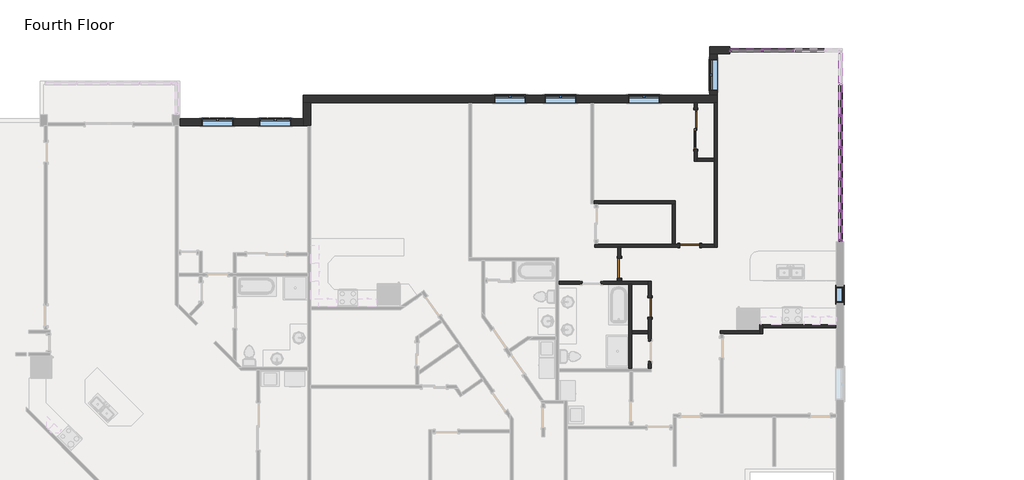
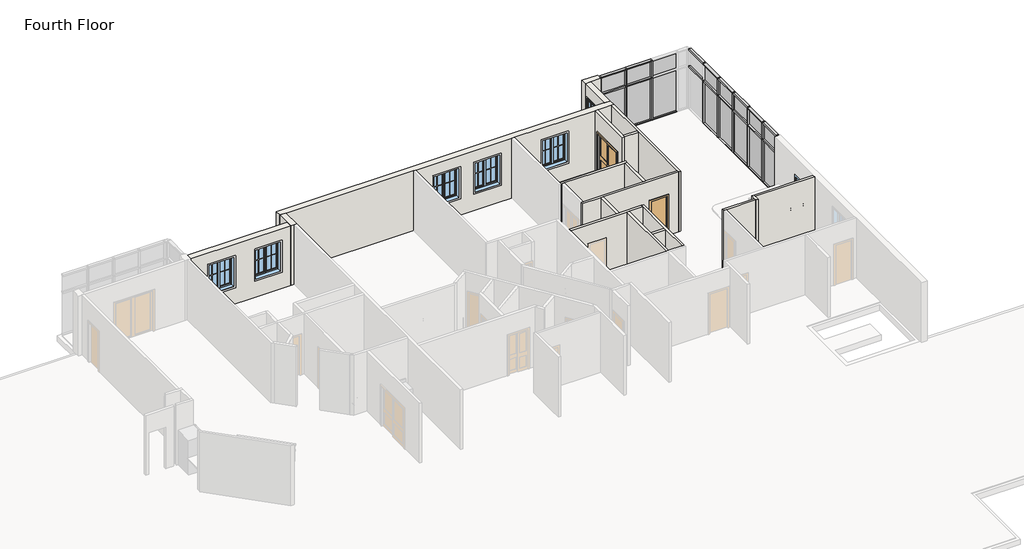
# One storey, part 12 of 17: 41 members, 19 walls, 16 plates, 7 windows, 4 doors.
"""IFC4 building model written with IfcOpenShell, lengths in millimetres."""

from ifc_helpers import new_model, si_unit, frame, origin, place, context, project, spatial, polyline, outline, extrude, faceted_brep, transform, mapped, element, save
from components import door_f2b275c1, door_2e7ec8be, rectangular_mullion_rectangular_mullion_1_fa3625a1, rectangular_mullion_rectangular_mullion_1_a50b3cda, rectangular_mullion_rectangular_mullion_1_5cd4c5ac, rectangular_mullion_rectangular_mullion_1_7cbf0b94, rectangular_mullion_rectangular_mullion_1_6186cc23, rectangular_mullion_rectangular_mullion_1_049a2e78, rectangular_mullion_rectangular_mullion_1_fcad50a8, rectangular_mullion_rectangular_mullion_1_aa096312, system_panel_glazed_53e6f9fb, system_panel_glazed_cb820e14, system_panel_glazed_f20beefc, system_panel_glazed_097fd36c, window_b85827b5, window_33528cc2

model = new_model("IFC4")

# Units and contexts
model_context = context("Model", 3, world=origin())
ifc_project = project(units=[si_unit("LENGTHUNIT", "METRE", prefix="MILLI")], contexts=[model_context])

# Site, building, storey
site = spatial("IfcSite", under=ifc_project)
building = spatial("IfcBuilding", under=site)
storey = spatial("IfcBuildingStorey", under=building, Name="Fourth Floor", Elevation=9144.0)

# Doors
placement = place(None, origin())
door_shape = door_f2b275c1(model_context)
element("IfcDoor", 1, ObjectType="Single-Flush : 30\" x 80\"", at=placement, inside=storey, context=model_context, shape_type="MappedRepresentation", body=[
    mapped(door_shape, transform((49850.4788879, 9096.855328, 9144.0), x_axis=(0.0, 1.0, 0.0), y_axis=(-1.0, 0.0, 0.0), z_axis=(0.0, 0.0, 1.0))),
])
element("IfcDoor", 2, ObjectType="Single-Flush : 30\" x 80\"", at=placement, inside=storey, context=model_context, shape_type="MappedRepresentation", body=[
    mapped(door_shape, transform((51382.3746633, 11479.9245559, 9144.0), x_axis=(-1.0, 0.0, 0.0), y_axis=(0.0, -1.0, 0.0), z_axis=(0.0, 0.0, 1.0))),
])
element("IfcDoor", 3, ObjectType="Single-Flush : 30\" x 80\"", at=placement, inside=storey, context=model_context, shape_type="MappedRepresentation", body=[
    mapped(door_shape, transform((48681.6260153, 10610.1456327, 9144.0), x_axis=(0.0, -1.0, 0.0), y_axis=(1.0, 0.0, 0.0), z_axis=(0.0, 0.0, 1.0))),
])
door_2_shape = door_2e7ec8be(model_context)
element("IfcDoor", 4, ObjectType="Sliding-Closet : 60\" x 80\"", at=placement, inside=storey, context=model_context, shape_type="MappedRepresentation", body=[
    mapped(door_2_shape, transform((51741.9440158, 15942.0032713, 9144.0), x_axis=(0.0, 1.0, 0.0), y_axis=(-1.0, 0.0, 0.0), z_axis=(0.0, 0.0, 1.0))),
])

# Members
rectangular_mullion_rectangular_mullion_1_shape = rectangular_mullion_rectangular_mullion_1_fa3625a1(model_context)
element("IfcMember", 5, ObjectType="Rectangular Mullion : Rectangular Mullion 1", at=placement, inside=storey, context=model_context, shape_type="MappedRepresentation", body=[
    mapped(rectangular_mullion_rectangular_mullion_1_shape, transform((54133.5034233, 18983.9169819, 12192.0), x_axis=(0.0, 0.0, 1.0), y_axis=(0.0, -1.0, 0.0), z_axis=(1.0, 0.0, 0.0))),
])
element("IfcMember", 6, ObjectType="Rectangular Mullion : Rectangular Mullion 1", at=placement, inside=storey, context=model_context, shape_type="MappedRepresentation", body=[
    mapped(rectangular_mullion_rectangular_mullion_1_shape, transform((55352.7034233, 18983.9169819, 12192.0), x_axis=(0.0, 0.0, 1.0), y_axis=(0.0, -1.0, 0.0), z_axis=(1.0, 0.0, 0.0))),
])
element("IfcMember", 7, ObjectType="Rectangular Mullion : Rectangular Mullion 1", at=placement, inside=storey, context=model_context, shape_type="MappedRepresentation", body=[
    mapped(rectangular_mullion_rectangular_mullion_1_shape, transform((57175.1534229, 17720.2669816, 12192.0), x_axis=(0.0, 0.0, 1.0), y_axis=(-1.0, 0.0, 0.0), z_axis=(0.0, -1.0, 0.0))),
])
element("IfcMember", 8, ObjectType="Rectangular Mullion : Rectangular Mullion 1", at=placement, inside=storey, context=model_context, shape_type="MappedRepresentation", body=[
    mapped(rectangular_mullion_rectangular_mullion_1_shape, transform((57175.1534229, 16501.0669816, 12192.0), x_axis=(0.0, 0.0, 1.0), y_axis=(-1.0, 0.0, 0.0), z_axis=(0.0, -1.0, 0.0))),
])
element("IfcMember", 9, ObjectType="Rectangular Mullion : Rectangular Mullion 1", at=placement, inside=storey, context=model_context, shape_type="MappedRepresentation", body=[
    mapped(rectangular_mullion_rectangular_mullion_1_shape, transform((57175.1534229, 15281.8669816, 12192.0), x_axis=(0.0, 0.0, 1.0), y_axis=(-1.0, 0.0, 0.0), z_axis=(0.0, -1.0, 0.0))),
])
element("IfcMember", 10, ObjectType="Rectangular Mullion : Rectangular Mullion 1", at=placement, inside=storey, context=model_context, shape_type="MappedRepresentation", body=[
    mapped(rectangular_mullion_rectangular_mullion_1_shape, transform((57175.1534229, 14062.6669816, 12192.0), x_axis=(0.0, 0.0, 1.0), y_axis=(-1.0, 0.0, 0.0), z_axis=(0.0, -1.0, 0.0))),
])
element("IfcMember", 11, ObjectType="Rectangular Mullion : Rectangular Mullion 1", at=placement, inside=storey, context=model_context, shape_type="MappedRepresentation", body=[
    mapped(rectangular_mullion_rectangular_mullion_1_shape, transform((57175.1534229, 12843.4669816, 12192.0), x_axis=(0.0, 0.0, 1.0), y_axis=(-1.0, 0.0, 0.0), z_axis=(0.0, -1.0, 0.0))),
])
element("IfcMember", 12, ObjectType="Rectangular Mullion : Rectangular Mullion 1", at=placement, inside=storey, context=model_context, shape_type="MappedRepresentation", body=[
    mapped(rectangular_mullion_rectangular_mullion_1_shape, transform((52977.8034229, 18983.9169819, 9144.0), x_axis=(0.0, 0.0, -1.0), y_axis=(0.0, -1.0, 0.0), z_axis=(-1.0, 0.0, 0.0))),
])
element("IfcMember", 13, ObjectType="Rectangular Mullion : Rectangular Mullion 1", at=placement, inside=storey, context=model_context, shape_type="MappedRepresentation", body=[
    mapped(rectangular_mullion_rectangular_mullion_1_shape, transform((54197.0034233, 18983.9169819, 9144.0), x_axis=(0.0, 0.0, -1.0), y_axis=(0.0, -1.0, 0.0), z_axis=(-1.0, 0.0, 0.0))),
])
element("IfcMember", 14, ObjectType="Rectangular Mullion : Rectangular Mullion 1", at=placement, inside=storey, context=model_context, shape_type="MappedRepresentation", body=[
    mapped(rectangular_mullion_rectangular_mullion_1_shape, transform((55416.2034233, 18983.9169819, 9144.0), x_axis=(0.0, 0.0, -1.0), y_axis=(0.0, -1.0, 0.0), z_axis=(-1.0, 0.0, 0.0))),
])
element("IfcMember", 15, ObjectType="Rectangular Mullion : Rectangular Mullion 1", at=placement, inside=storey, context=model_context, shape_type="MappedRepresentation", body=[
    mapped(rectangular_mullion_rectangular_mullion_1_shape, transform((57175.1534229, 17656.7669816, 9144.0), x_axis=(0.0, 0.0, -1.0), y_axis=(-1.0, 0.0, 0.0), z_axis=(0.0, 1.0, 0.0))),
])
element("IfcMember", 16, ObjectType="Rectangular Mullion : Rectangular Mullion 1", at=placement, inside=storey, context=model_context, shape_type="MappedRepresentation", body=[
    mapped(rectangular_mullion_rectangular_mullion_1_shape, transform((57175.1534229, 16437.5669816, 9144.0), x_axis=(0.0, 0.0, -1.0), y_axis=(-1.0, 0.0, 0.0), z_axis=(0.0, 1.0, 0.0))),
])
element("IfcMember", 17, ObjectType="Rectangular Mullion : Rectangular Mullion 1", at=placement, inside=storey, context=model_context, shape_type="MappedRepresentation", body=[
    mapped(rectangular_mullion_rectangular_mullion_1_shape, transform((57175.1534229, 15218.3669816, 9144.0), x_axis=(0.0, 0.0, -1.0), y_axis=(-1.0, 0.0, 0.0), z_axis=(0.0, 1.0, 0.0))),
])
element("IfcMember", 18, ObjectType="Rectangular Mullion : Rectangular Mullion 1", at=placement, inside=storey, context=model_context, shape_type="MappedRepresentation", body=[
    mapped(rectangular_mullion_rectangular_mullion_1_shape, transform((57175.1534229, 13999.1669816, 9144.0), x_axis=(0.0, 0.0, -1.0), y_axis=(-1.0, 0.0, 0.0), z_axis=(0.0, 1.0, 0.0))),
])
rectangular_mullion_rectangular_mullion_1_2_shape = rectangular_mullion_rectangular_mullion_1_a50b3cda(model_context)
element("IfcMember", 19, ObjectType="Rectangular Mullion : Rectangular Mullion 1", at=placement, inside=storey, context=model_context, shape_type="MappedRepresentation", body=[
    mapped(rectangular_mullion_rectangular_mullion_1_2_shape, transform((57175.1534229, 11632.2044819, 9144.0), x_axis=(0.0, -1.0, 0.0), y_axis=(-1.0, 0.0, 0.0), z_axis=(0.0, 0.0, -1.0))),
])
rectangular_mullion_rectangular_mullion_1_3_shape = rectangular_mullion_rectangular_mullion_1_5cd4c5ac(model_context)
element("IfcMember", 20, ObjectType="Rectangular Mullion : Rectangular Mullion 1", at=placement, inside=storey, context=model_context, shape_type="MappedRepresentation", body=[
    mapped(rectangular_mullion_rectangular_mullion_1_3_shape, transform((57175.1534229, 11632.2044819, 11309.35), x_axis=(0.0, -1.0, 0.0), y_axis=(-1.0, 0.0, 0.0), z_axis=(0.0, 0.0, -1.0))),
])
element("IfcMember", 21, ObjectType="Rectangular Mullion : Rectangular Mullion 1", at=placement, inside=storey, context=model_context, shape_type="MappedRepresentation", body=[
    mapped(rectangular_mullion_rectangular_mullion_1_3_shape, transform((52914.3034229, 18983.9169819, 12192.0), x_axis=(-1.0, 0.0, 0.0), y_axis=(0.0, -1.0, 0.0), z_axis=(0.0, 0.0, 1.0))),
])
element("IfcMember", 22, ObjectType="Rectangular Mullion : Rectangular Mullion 1", at=placement, inside=storey, context=model_context, shape_type="MappedRepresentation", body=[
    mapped(rectangular_mullion_rectangular_mullion_1_2_shape, transform((52914.3034229, 18983.9169819, 11309.35), x_axis=(-1.0, 0.0, 0.0), y_axis=(0.0, -1.0, 0.0), z_axis=(0.0, 0.0, 1.0))),
])
rectangular_mullion_rectangular_mullion_1_4_shape = rectangular_mullion_rectangular_mullion_1_7cbf0b94(model_context)
element("IfcMember", 23, ObjectType="Rectangular Mullion : Rectangular Mullion 1", at=placement, inside=storey, context=model_context, shape_type="MappedRepresentation", body=[
    mapped(rectangular_mullion_rectangular_mullion_1_4_shape, transform((54133.5034233, 18983.9169819, 11309.35), x_axis=(0.0, 0.0, 1.0), y_axis=(0.0, -1.0, 0.0), z_axis=(1.0, 0.0, 0.0))),
])
element("IfcMember", 24, ObjectType="Rectangular Mullion : Rectangular Mullion 1", at=placement, inside=storey, context=model_context, shape_type="MappedRepresentation", body=[
    mapped(rectangular_mullion_rectangular_mullion_1_4_shape, transform((55352.7034233, 18983.9169819, 11309.35), x_axis=(0.0, 0.0, 1.0), y_axis=(0.0, -1.0, 0.0), z_axis=(1.0, 0.0, 0.0))),
])
element("IfcMember", 25, ObjectType="Rectangular Mullion : Rectangular Mullion 1", at=placement, inside=storey, context=model_context, shape_type="MappedRepresentation", body=[
    mapped(rectangular_mullion_rectangular_mullion_1_4_shape, transform((57175.1534229, 17720.2669816, 11309.35), x_axis=(0.0, 0.0, 1.0), y_axis=(-1.0, 0.0, 0.0), z_axis=(0.0, -1.0, 0.0))),
])
element("IfcMember", 26, ObjectType="Rectangular Mullion : Rectangular Mullion 1", at=placement, inside=storey, context=model_context, shape_type="MappedRepresentation", body=[
    mapped(rectangular_mullion_rectangular_mullion_1_4_shape, transform((57175.1534229, 16501.0669816, 11309.35), x_axis=(0.0, 0.0, 1.0), y_axis=(-1.0, 0.0, 0.0), z_axis=(0.0, -1.0, 0.0))),
])
element("IfcMember", 27, ObjectType="Rectangular Mullion : Rectangular Mullion 1", at=placement, inside=storey, context=model_context, shape_type="MappedRepresentation", body=[
    mapped(rectangular_mullion_rectangular_mullion_1_4_shape, transform((57175.1534229, 15281.8669816, 11309.35), x_axis=(0.0, 0.0, 1.0), y_axis=(-1.0, 0.0, 0.0), z_axis=(0.0, -1.0, 0.0))),
])
element("IfcMember", 28, ObjectType="Rectangular Mullion : Rectangular Mullion 1", at=placement, inside=storey, context=model_context, shape_type="MappedRepresentation", body=[
    mapped(rectangular_mullion_rectangular_mullion_1_4_shape, transform((57175.1534229, 14062.6669816, 11309.35), x_axis=(0.0, 0.0, 1.0), y_axis=(-1.0, 0.0, 0.0), z_axis=(0.0, -1.0, 0.0))),
])
element("IfcMember", 29, ObjectType="Rectangular Mullion : Rectangular Mullion 1", at=placement, inside=storey, context=model_context, shape_type="MappedRepresentation", body=[
    mapped(rectangular_mullion_rectangular_mullion_1_4_shape, transform((57175.1534229, 12843.4669816, 11309.35), x_axis=(0.0, 0.0, 1.0), y_axis=(-1.0, 0.0, 0.0), z_axis=(0.0, -1.0, 0.0))),
])
rectangular_mullion_rectangular_mullion_1_5_shape = rectangular_mullion_rectangular_mullion_1_6186cc23(model_context)
element("IfcMember", 30, ObjectType="Rectangular Mullion : Rectangular Mullion 1", at=placement, inside=storey, context=model_context, shape_type="MappedRepresentation", body=[
    mapped(rectangular_mullion_rectangular_mullion_1_5_shape, transform((54165.2534233, 18983.9169819, 9144.0), x_axis=(1.0, 0.0, 0.0), y_axis=(0.0, -1.0, 0.0), z_axis=(0.0, 0.0, -1.0))),
])
element("IfcMember", 31, ObjectType="Rectangular Mullion : Rectangular Mullion 1", at=placement, inside=storey, context=model_context, shape_type="MappedRepresentation", body=[
    mapped(rectangular_mullion_rectangular_mullion_1_5_shape, transform((55384.4534233, 18983.9169819, 9144.0), x_axis=(1.0, 0.0, 0.0), y_axis=(0.0, -1.0, 0.0), z_axis=(0.0, 0.0, -1.0))),
])
element("IfcMember", 32, ObjectType="Rectangular Mullion : Rectangular Mullion 1", at=placement, inside=storey, context=model_context, shape_type="MappedRepresentation", body=[
    mapped(rectangular_mullion_rectangular_mullion_1_5_shape, transform((57175.1534229, 17688.5169816, 9144.0), x_axis=(0.0, -1.0, 0.0), y_axis=(-1.0, 0.0, 0.0), z_axis=(0.0, 0.0, -1.0))),
])
element("IfcMember", 33, ObjectType="Rectangular Mullion : Rectangular Mullion 1", at=placement, inside=storey, context=model_context, shape_type="MappedRepresentation", body=[
    mapped(rectangular_mullion_rectangular_mullion_1_5_shape, transform((57175.1534229, 16469.3169816, 9144.0), x_axis=(0.0, -1.0, 0.0), y_axis=(-1.0, 0.0, 0.0), z_axis=(0.0, 0.0, -1.0))),
])
element("IfcMember", 34, ObjectType="Rectangular Mullion : Rectangular Mullion 1", at=placement, inside=storey, context=model_context, shape_type="MappedRepresentation", body=[
    mapped(rectangular_mullion_rectangular_mullion_1_5_shape, transform((57175.1534229, 15250.1169816, 9144.0), x_axis=(0.0, -1.0, 0.0), y_axis=(-1.0, 0.0, 0.0), z_axis=(0.0, 0.0, -1.0))),
])
element("IfcMember", 35, ObjectType="Rectangular Mullion : Rectangular Mullion 1", at=placement, inside=storey, context=model_context, shape_type="MappedRepresentation", body=[
    mapped(rectangular_mullion_rectangular_mullion_1_5_shape, transform((57175.1534229, 14030.9169816, 9144.0), x_axis=(0.0, -1.0, 0.0), y_axis=(-1.0, 0.0, 0.0), z_axis=(0.0, 0.0, -1.0))),
])
element("IfcMember", 36, ObjectType="Rectangular Mullion : Rectangular Mullion 1", at=placement, inside=storey, context=model_context, shape_type="MappedRepresentation", body=[
    mapped(rectangular_mullion_rectangular_mullion_1_5_shape, transform((57175.1534229, 12811.7169816, 9144.0), x_axis=(0.0, -1.0, 0.0), y_axis=(-1.0, 0.0, 0.0), z_axis=(0.0, 0.0, -1.0))),
])
rectangular_mullion_rectangular_mullion_1_6_shape = rectangular_mullion_rectangular_mullion_1_049a2e78(model_context)
element("IfcMember", 37, ObjectType="Rectangular Mullion : Rectangular Mullion 1", at=placement, inside=storey, context=model_context, shape_type="MappedRepresentation", body=[
    mapped(rectangular_mullion_rectangular_mullion_1_6_shape, transform((54165.2534233, 18983.9169819, 11309.35), x_axis=(1.0, 0.0, 0.0), y_axis=(0.0, -1.0, 0.0), z_axis=(0.0, 0.0, -1.0))),
])
element("IfcMember", 38, ObjectType="Rectangular Mullion : Rectangular Mullion 1", at=placement, inside=storey, context=model_context, shape_type="MappedRepresentation", body=[
    mapped(rectangular_mullion_rectangular_mullion_1_6_shape, transform((55384.4534233, 18983.9169819, 11309.35), x_axis=(1.0, 0.0, 0.0), y_axis=(0.0, -1.0, 0.0), z_axis=(0.0, 0.0, -1.0))),
])
element("IfcMember", 39, ObjectType="Rectangular Mullion : Rectangular Mullion 1", at=placement, inside=storey, context=model_context, shape_type="MappedRepresentation", body=[
    mapped(rectangular_mullion_rectangular_mullion_1_6_shape, transform((57175.1534229, 16469.3169816, 11309.35), x_axis=(0.0, -1.0, 0.0), y_axis=(-1.0, 0.0, 0.0), z_axis=(0.0, 0.0, -1.0))),
])
element("IfcMember", 40, ObjectType="Rectangular Mullion : Rectangular Mullion 1", at=placement, inside=storey, context=model_context, shape_type="MappedRepresentation", body=[
    mapped(rectangular_mullion_rectangular_mullion_1_6_shape, transform((57175.1534229, 15250.1169816, 11309.35), x_axis=(0.0, -1.0, 0.0), y_axis=(-1.0, 0.0, 0.0), z_axis=(0.0, 0.0, -1.0))),
])
element("IfcMember", 41, ObjectType="Rectangular Mullion : Rectangular Mullion 1", at=placement, inside=storey, context=model_context, shape_type="MappedRepresentation", body=[
    mapped(rectangular_mullion_rectangular_mullion_1_6_shape, transform((57175.1534229, 14030.9169816, 11309.35), x_axis=(0.0, -1.0, 0.0), y_axis=(-1.0, 0.0, 0.0), z_axis=(0.0, 0.0, -1.0))),
])
element("IfcMember", 42, ObjectType="Rectangular Mullion : Rectangular Mullion 1", at=placement, inside=storey, context=model_context, shape_type="MappedRepresentation", body=[
    mapped(rectangular_mullion_rectangular_mullion_1_6_shape, transform((57175.1534229, 12811.7169816, 11309.35), x_axis=(0.0, -1.0, 0.0), y_axis=(-1.0, 0.0, 0.0), z_axis=(0.0, 0.0, -1.0))),
])
rectangular_mullion_rectangular_mullion_1_7_shape = rectangular_mullion_rectangular_mullion_1_fcad50a8(model_context)
element("IfcMember", 43, ObjectType="Rectangular Mullion : Rectangular Mullion 1", at=placement, inside=storey, context=model_context, shape_type="MappedRepresentation", body=[
    mapped(rectangular_mullion_rectangular_mullion_1_7_shape, transform((57175.1534229, 11695.7044819, 12192.0), x_axis=(0.0, 0.0, 1.0), y_axis=(-1.0, 0.0, 0.0), z_axis=(0.0, -1.0, 0.0))),
])
element("IfcMember", 44, ObjectType="Rectangular Mullion : Rectangular Mullion 1", at=placement, inside=storey, context=model_context, shape_type="MappedRepresentation", body=[
    mapped(rectangular_mullion_rectangular_mullion_1_7_shape, transform((57175.1534229, 12779.9669816, 9144.0), x_axis=(0.0, 0.0, -1.0), y_axis=(-1.0, 0.0, 0.0), z_axis=(0.0, 1.0, 0.0))),
])
rectangular_mullion_rectangular_mullion_1_8_shape = rectangular_mullion_rectangular_mullion_1_aa096312(model_context)
element("IfcMember", 45, ObjectType="Rectangular Mullion : Rectangular Mullion 1", at=placement, inside=storey, context=model_context, shape_type="MappedRepresentation", body=[
    mapped(rectangular_mullion_rectangular_mullion_1_8_shape, transform((57175.1534229, 11695.7044819, 11309.35), x_axis=(0.0, 0.0, 1.0), y_axis=(-1.0, 0.0, 0.0), z_axis=(0.0, -1.0, 0.0))),
])

# Plates
system_panel_glazed_shape = system_panel_glazed_53e6f9fb(model_context)
element("IfcPlate", 46, ObjectType="System Panel : Glazed", at=placement, inside=storey, context=model_context, shape_type="MappedRepresentation", body=[
    mapped(system_panel_glazed_shape, transform((53555.6534231, 18983.9169819, 9207.5), x_axis=(1.0, 0.0, 0.0), y_axis=(0.0, 1.0, 0.0), z_axis=(0.0, 0.0, 1.0))),
])
element("IfcPlate", 47, ObjectType="System Panel : Glazed", at=placement, inside=storey, context=model_context, shape_type="MappedRepresentation", body=[
    mapped(system_panel_glazed_shape, transform((54774.8534233, 18983.9169819, 9207.5), x_axis=(1.0, 0.0, 0.0), y_axis=(0.0, 1.0, 0.0), z_axis=(0.0, 0.0, 1.0))),
])
element("IfcPlate", 48, ObjectType="System Panel : Glazed", at=placement, inside=storey, context=model_context, shape_type="MappedRepresentation", body=[
    mapped(system_panel_glazed_shape, transform((55994.0534233, 18983.9169819, 9207.5), x_axis=(1.0, 0.0, 0.0), y_axis=(0.0, 1.0, 0.0), z_axis=(0.0, 0.0, 1.0))),
])
element("IfcPlate", 49, ObjectType="System Panel : Glazed", at=placement, inside=storey, context=model_context, shape_type="MappedRepresentation", body=[
    mapped(system_panel_glazed_shape, transform((57175.1534229, 17078.9169816, 9207.5), x_axis=(0.0, -1.0, 0.0), y_axis=(1.0, 0.0, 0.0), z_axis=(0.0, 0.0, 1.0))),
])
element("IfcPlate", 50, ObjectType="System Panel : Glazed", at=placement, inside=storey, context=model_context, shape_type="MappedRepresentation", body=[
    mapped(system_panel_glazed_shape, transform((57175.1534229, 15859.7169816, 9207.5), x_axis=(0.0, -1.0, 0.0), y_axis=(1.0, 0.0, 0.0), z_axis=(0.0, 0.0, 1.0))),
])
element("IfcPlate", 51, ObjectType="System Panel : Glazed", at=placement, inside=storey, context=model_context, shape_type="MappedRepresentation", body=[
    mapped(system_panel_glazed_shape, transform((57175.1534229, 14640.5169816, 9207.5), x_axis=(0.0, -1.0, 0.0), y_axis=(1.0, 0.0, 0.0), z_axis=(0.0, 0.0, 1.0))),
])
element("IfcPlate", 52, ObjectType="System Panel : Glazed", at=placement, inside=storey, context=model_context, shape_type="MappedRepresentation", body=[
    mapped(system_panel_glazed_shape, transform((57175.1534229, 13421.3169816, 9207.5), x_axis=(0.0, -1.0, 0.0), y_axis=(1.0, 0.0, 0.0), z_axis=(0.0, 0.0, 1.0))),
])
system_panel_glazed_2_shape = system_panel_glazed_cb820e14(model_context)
element("IfcPlate", 53, ObjectType="System Panel : Glazed", at=placement, inside=storey, context=model_context, shape_type="MappedRepresentation", body=[
    mapped(system_panel_glazed_2_shape, transform((53555.6534231, 18983.9169819, 11341.1), x_axis=(1.0, 0.0, 0.0), y_axis=(0.0, 1.0, 0.0), z_axis=(0.0, 0.0, 1.0))),
])
element("IfcPlate", 54, ObjectType="System Panel : Glazed", at=placement, inside=storey, context=model_context, shape_type="MappedRepresentation", body=[
    mapped(system_panel_glazed_2_shape, transform((54774.8534233, 18983.9169819, 11341.1), x_axis=(1.0, 0.0, 0.0), y_axis=(0.0, 1.0, 0.0), z_axis=(0.0, 0.0, 1.0))),
])
element("IfcPlate", 55, ObjectType="System Panel : Glazed", at=placement, inside=storey, context=model_context, shape_type="MappedRepresentation", body=[
    mapped(system_panel_glazed_2_shape, transform((55994.0534233, 18983.9169819, 11341.1), x_axis=(1.0, 0.0, 0.0), y_axis=(0.0, 1.0, 0.0), z_axis=(0.0, 0.0, 1.0))),
])
element("IfcPlate", 56, ObjectType="System Panel : Glazed", at=placement, inside=storey, context=model_context, shape_type="MappedRepresentation", body=[
    mapped(system_panel_glazed_2_shape, transform((57175.1534229, 17078.9169816, 11341.1), x_axis=(0.0, -1.0, 0.0), y_axis=(1.0, 0.0, 0.0), z_axis=(0.0, 0.0, 1.0))),
])
element("IfcPlate", 57, ObjectType="System Panel : Glazed", at=placement, inside=storey, context=model_context, shape_type="MappedRepresentation", body=[
    mapped(system_panel_glazed_2_shape, transform((57175.1534229, 15859.7169816, 11341.1), x_axis=(0.0, -1.0, 0.0), y_axis=(1.0, 0.0, 0.0), z_axis=(0.0, 0.0, 1.0))),
])
element("IfcPlate", 58, ObjectType="System Panel : Glazed", at=placement, inside=storey, context=model_context, shape_type="MappedRepresentation", body=[
    mapped(system_panel_glazed_2_shape, transform((57175.1534229, 14640.5169816, 11341.1), x_axis=(0.0, -1.0, 0.0), y_axis=(1.0, 0.0, 0.0), z_axis=(0.0, 0.0, 1.0))),
])
element("IfcPlate", 59, ObjectType="System Panel : Glazed", at=placement, inside=storey, context=model_context, shape_type="MappedRepresentation", body=[
    mapped(system_panel_glazed_2_shape, transform((57175.1534229, 13421.3169816, 11341.1), x_axis=(0.0, -1.0, 0.0), y_axis=(1.0, 0.0, 0.0), z_axis=(0.0, 0.0, 1.0))),
])
system_panel_glazed_3_shape = system_panel_glazed_f20beefc(model_context)
element("IfcPlate", 60, ObjectType="System Panel : Glazed", at=placement, inside=storey, context=model_context, shape_type="MappedRepresentation", body=[
    mapped(system_panel_glazed_3_shape, transform((57175.1534229, 12237.8357318, 9207.5), x_axis=(0.0, -1.0, 0.0), y_axis=(1.0, 0.0, 0.0), z_axis=(0.0, 0.0, 1.0))),
])
system_panel_glazed_4_shape = system_panel_glazed_097fd36c(model_context)
element("IfcPlate", 61, ObjectType="System Panel : Glazed", at=placement, inside=storey, context=model_context, shape_type="MappedRepresentation", body=[
    mapped(system_panel_glazed_4_shape, transform((57175.1534229, 12237.8357318, 11341.1), x_axis=(0.0, -1.0, 0.0), y_axis=(1.0, 0.0, 0.0), z_axis=(0.0, 0.0, 1.0))),
])

# Walls
element("IfcWall", 62, ObjectType="Exterior - Brick on Wood Stud", at=placement, inside=storey, context=model_context, shape_type="Brep", body=[
    faceted_brep([(52157.0659229, 18842.6294819, 9144.0), (52439.6409229, 18842.6294819, 9144.0), (52914.3034229, 18842.6294819, 9144.0), (52914.3034229, 18842.6294819, 12192.0), (52439.6409229, 18842.6294819, 12192.0), (52157.0659229, 18842.6294819, 12192.0), (52157.0659229, 19125.2044819, 9144.0), (52157.0659229, 19125.2044819, 12192.0), (52914.3034229, 19125.2044819, 12192.0), (52914.3034229, 19125.2044819, 9144.0)], [[[0, 1, 2, 3, 4, 5]], [[6, 7, 8, 9]], [[2, 1, 0, 6, 9]], [[3, 2, 9, 8]], [[5, 4, 3, 8, 7]], [[0, 5, 7, 6]]]),
])
element("IfcWall", 63, ObjectType="Exterior - Brick on Wood Stud", at=placement, inside=storey, context=model_context, shape_type="Brep", body=[
    faceted_brep([(36533.8428001, 16964.1039258, 9144.0), (36816.4178001, 16964.1039258, 9144.0), (42890.1928001, 16964.1039258, 9144.0), (43004.4928001, 16964.1039258, 9144.0), (47578.7440143, 16964.1039258, 9144.0), (47693.0440143, 16964.1039258, 9144.0), (51557.7940158, 16964.1039258, 9144.0), (51672.0940158, 16964.1039258, 9144.0), (52325.3409229, 16964.1039258, 9144.0), (52439.6409229, 16964.1039258, 9144.0), (52439.6409229, 16964.1039258, 12192.0), (52325.3409229, 16964.1039258, 12192.0), (51672.0940158, 16964.1039258, 12192.0), (51557.7940158, 16964.1039258, 12192.0), (47693.0440143, 16964.1039258, 12192.0), (47578.7440143, 16964.1039258, 12192.0), (43004.4928001, 16964.1039258, 12192.0), (42890.1928001, 16964.1039258, 12192.0), (36816.4178001, 16964.1039258, 12192.0), (36533.8428001, 16964.1039258, 12192.0), (45080.9428001, 16964.1039258, 11582.4), (45080.9428001, 16964.1039258, 10058.4), (43861.7428001, 16964.1039258, 10058.4), (43861.7428001, 16964.1039258, 11582.4), (50235.0190151, 16964.1039258, 11582.4), (50235.0190151, 16964.1039258, 10058.4), (49015.8190151, 16964.1039258, 10058.4), (49015.8190151, 16964.1039258, 11582.4), (47026.2940143, 16964.1039258, 11582.4), (47026.2940143, 16964.1039258, 10058.4), (45807.0940143, 16964.1039258, 10058.4), (45807.0940143, 16964.1039258, 11582.4), (36533.8428001, 17246.6789258, 9144.0), (36533.8428001, 17246.6789258, 12192.0), (52157.0659229, 17246.6789258, 12192.0), (52439.6409229, 17246.6789258, 12192.0), (52439.6409229, 17246.6789258, 9144.0), (52157.0659229, 17246.6789258, 9144.0), (45080.9428001, 17246.6789258, 11582.4), (43861.7428001, 17246.6789258, 11582.4), (43861.7428001, 17246.6789258, 10058.4), (45080.9428001, 17246.6789258, 10058.4), (50235.0190151, 17246.6789258, 11582.4), (49015.8190151, 17246.6789258, 11582.4), (49015.8190151, 17246.6789258, 10058.4), (50235.0190151, 17246.6789258, 10058.4), (47026.2940143, 17246.6789258, 11582.4), (45807.0940143, 17246.6789258, 11582.4), (45807.0940143, 17246.6789258, 10058.4), (47026.2940143, 17246.6789258, 10058.4)], [[[0, 1, 2, 3, 4, 5, 6, 7, 8, 9, 10, 11, 12, 13, 14, 15, 16, 17, 18, 19], [20, 21, 22, 23], [24, 25, 26, 27], [28, 29, 30, 31]], [[32, 33, 34, 35, 36, 37], [38, 39, 40, 41], [42, 43, 44, 45], [46, 47, 48, 49]], [[21, 20, 38, 41]], [[22, 21, 41, 40]], [[23, 22, 40, 39]], [[20, 23, 39, 38]], [[25, 24, 42, 45]], [[26, 25, 45, 44]], [[27, 26, 44, 43]], [[24, 27, 43, 42]], [[29, 28, 46, 49]], [[30, 29, 49, 48]], [[31, 30, 48, 47]], [[28, 31, 47, 46]], [[9, 8, 7, 6, 5, 4, 3, 2, 1, 0, 32, 37, 36]], [[19, 18, 17, 16, 15, 14, 13, 12, 11, 10, 35, 34, 33]], [[0, 19, 33, 32]], [[10, 9, 36, 35]]]),
])
element("IfcWall", 64, ObjectType="Exterior - Brick on Wood Stud", at=placement, inside=storey, context=model_context, shape_type="Brep", body=[
    faceted_brep([(36533.8428001, 16964.1039258, 9144.0), (36533.8428001, 16359.6615339, 9144.0), (36533.8428001, 16077.0865339, 9144.0), (36533.8428001, 16077.0865339, 12192.0), (36533.8428001, 16359.6615339, 12192.0), (36533.8428001, 16964.1039258, 12192.0), (36816.4178001, 16964.1039258, 9144.0), (36816.4178001, 16964.1039258, 12192.0), (36816.4178001, 16077.0865339, 12192.0), (36816.4178001, 16077.0865339, 9144.0), (36702.1178001, 16077.0865339, 9144.0), (36702.1178001, 16077.0865339, 12192.0)], [[[0, 1, 2, 3, 4, 5]], [[6, 7, 8, 9]], [[2, 1, 0, 6, 9, 10]], [[5, 4, 3, 11, 8, 7]], [[3, 2, 10, 9, 8, 11]], [[0, 5, 7, 6]]]),
])
element("IfcWall", 65, ObjectType="Exterior - Brick on Wood Stud", at=placement, inside=storey, context=model_context, shape_type="SweptSolid", body=[
    extrude(outline(polyline([(18842.6294819, 9144.0), (17246.6789258, 9144.0), (17246.6789258, 12192.0), (18842.6294819, 12192.0), (18842.6294819, 9144.0)]), holes=[polyline([(18641.5542038, 11582.4), (17422.3542038, 11582.4), (17422.3542038, 10058.4), (18641.5542038, 10058.4), (18641.5542038, 11582.4)])]), frame((52157.0659229, 0.0, 0.0), z_axis=(1.0, 0.0, 0.0), x_axis=(0.0, 1.0, 0.0)), (0.0, 0.0, 1.0), 282.575),
])
element("IfcWall", 66, ObjectType="Exterior - Brick on Wood Stud", at=placement, inside=storey, context=model_context, shape_type="SweptSolid", body=[
    extrude(outline(polyline([(9144.0, 36533.8428001), (12192.0, 36533.8428001), (12192.0, 31777.7798474), (9144.0, 31777.7798474), (9144.0, 36533.8428001)]), holes=[polyline([(11582.4, 36065.5303001), (10058.4, 36065.5303001), (10058.4, 34846.3303001), (11582.4, 34846.3303001), (11582.4, 36065.5303001)]), polyline([(11582.4, 33846.2923474), (10058.4, 33846.2923474), (10058.4, 32627.0923474), (11582.4, 32627.0923474), (11582.4, 33846.2923474)])]), frame((0.0, 16077.0865339, 0.0), z_axis=(0.0, 1.0, 0.0), x_axis=(0.0, 0.0, 1.0)), (0.0, 0.0, 1.0), 282.575),
])
element("IfcWall", 67, ObjectType="Interior - 4 1/2\" Partition", at=placement, inside=storey, context=model_context, shape_type="Brep", body=[
    faceted_brep([(47693.0440143, 13091.2456698, 9144.0), (47731.1440143, 13091.2456698, 9144.0), (47845.4440143, 13091.2456698, 9144.0), (50715.6246633, 13091.2456698, 9144.0), (50829.9246633, 13091.2456698, 9144.0), (50829.9246633, 13091.2456698, 12192.0), (50715.6246633, 13091.2456698, 12192.0), (47845.4440143, 13091.2456698, 12192.0), (47731.1440143, 13091.2456698, 12192.0), (47693.0440143, 13091.2456698, 12192.0), (47693.0440143, 13205.5456698, 9144.0), (47693.0440143, 13205.5456698, 12192.0), (50829.9246633, 13205.5456698, 12192.0), (50829.9246633, 13205.5456698, 9144.0)], [[[0, 1, 2, 3, 4, 5, 6, 7, 8, 9]], [[10, 11, 12, 13]], [[4, 3, 2, 1, 0, 10, 13]], [[9, 8, 7, 6, 5, 12, 11]], [[5, 4, 13, 12]], [[0, 9, 11, 10]]]),
])
element("IfcWall", 68, ObjectType="Interior - 4 1/2\" Partition", at=placement, inside=storey, context=model_context, shape_type="SweptSolid", body=[
    extrude(outline(polyline([(50715.6246633, 11537.0745559), (50715.6246633, 13091.2456698), (50829.9246633, 13091.2456698), (50829.9246633, 11537.0745559), (50715.6246633, 11537.0745559)])), frame((0.0, 0.0, 9144.0), z_axis=(0.0, 0.0, 1.0), x_axis=(1.0, 0.0, 0.0)), (0.0, 0.0, 1.0), 3048.0),
])
element("IfcWall", 69, ObjectType="Interior - 4 1/2\" Partition", at=placement, inside=storey, context=model_context, shape_type="Brep", body=[
    faceted_brep([(52325.3409229, 16964.1039258, 9144.0), (52325.3409229, 14835.7651168, 9144.0), (52325.3409229, 14721.4651168, 9144.0), (52325.3409229, 11537.0745559, 9144.0), (52325.3409229, 11422.7745559, 9144.0), (52325.3409229, 11422.7745559, 12192.0), (52325.3409229, 11537.0745559, 12192.0), (52325.3409229, 14721.4651168, 12192.0), (52325.3409229, 14835.7651168, 12192.0), (52325.3409229, 16964.1039258, 12192.0), (52439.6409229, 16964.1039258, 9144.0), (52439.6409229, 16964.1039258, 12192.0), (52439.6409229, 11422.7745559, 12192.0), (52439.6409229, 11422.7745559, 9144.0)], [[[0, 1, 2, 3, 4, 5, 6, 7, 8, 9]], [[10, 11, 12, 13]], [[4, 3, 2, 1, 0, 10, 13]], [[9, 8, 7, 6, 5, 12, 11]], [[5, 4, 13, 12]], [[0, 9, 11, 10]]]),
])
element("IfcWall", 70, ObjectType="Interior - 4 1/2\" Partition", at=placement, inside=storey, context=model_context, shape_type="Brep", body=[
    faceted_brep([(51001.3746633, 11537.0745559, 11176.0), (51001.3746633, 11537.0745559, 9144.0), (50829.9246633, 11537.0745559, 9144.0), (50715.6246633, 11537.0745559, 9144.0), (47845.4440143, 11537.0745559, 9144.0), (47731.1440143, 11537.0745559, 9144.0), (47731.1440143, 11537.0745559, 12192.0), (47845.4440143, 11537.0745559, 12192.0), (50715.6246633, 11537.0745559, 12192.0), (50829.9246633, 11537.0745559, 12192.0), (52325.3409229, 11537.0745559, 12192.0), (52325.3409229, 11537.0745559, 9144.0), (51763.3746633, 11537.0745559, 9144.0), (51763.3746633, 11537.0745559, 11176.0), (47731.1440143, 11422.7745559, 9144.0), (48624.4760153, 11422.7745559, 9144.0), (48738.7760153, 11422.7745559, 9144.0), (51001.3746633, 11422.7745559, 9144.0), (51001.3746633, 11422.7745559, 11176.0), (51763.3746633, 11422.7745559, 11176.0), (51763.3746633, 11422.7745559, 9144.0), (52325.3409229, 11422.7745559, 9144.0), (52325.3409229, 11422.7745559, 12192.0), (48738.7760153, 11422.7745559, 12192.0), (48624.4760153, 11422.7745559, 12192.0), (47731.1440143, 11422.7745559, 12192.0)], [[[0, 1, 2, 3, 4, 5, 6, 7, 8, 9, 10, 11, 12, 13]], [[14, 15, 16, 17, 18, 19, 20, 21, 22, 23, 24, 25]], [[12, 11, 21, 20]], [[5, 4, 3, 2, 1, 17, 16, 15, 14]], [[10, 9, 8, 7, 6, 25, 24, 23, 22]], [[18, 17, 1, 0]], [[19, 18, 0, 13]], [[20, 19, 13, 12]], [[6, 5, 14, 25]], [[11, 10, 22, 21]]]),
])
element("IfcWall", 71, ObjectType="Interior - 4 1/2\" Partition", at=placement, inside=storey, context=model_context, shape_type="Brep", body=[
    faceted_brep([(49907.6288879, 9477.855328, 11176.0), (49907.6288879, 9477.855328, 9144.0), (49907.6288879, 10102.3167096, 9144.0), (49907.6288879, 10102.3167096, 12192.0), (49907.6288879, 6749.5167096, 12192.0), (49907.6288879, 6749.5167096, 9144.0), (49907.6288879, 7039.455328, 9144.0), (49907.6288879, 7039.455328, 11176.0), (49907.6288879, 7801.455328, 11176.0), (49907.6288879, 7801.455328, 9144.0), (49907.6288879, 8715.855328, 9144.0), (49907.6288879, 8715.855328, 11176.0), (49793.3288879, 10102.3167096, 9144.0), (49793.3288879, 9988.0167096, 9144.0), (49793.3288879, 9477.855328, 9144.0), (49793.3288879, 9477.855328, 11176.0), (49793.3288879, 8715.855328, 11176.0), (49793.3288879, 8715.855328, 9144.0), (49793.3288879, 8205.6939464, 9144.0), (49793.3288879, 8091.3939464, 9144.0), (49793.3288879, 7801.455328, 9144.0), (49793.3288879, 7801.455328, 11176.0), (49793.3288879, 7039.455328, 11176.0), (49793.3288879, 7039.455328, 9144.0), (49793.3288879, 6749.5167096, 9144.0), (49793.3288879, 6749.5167096, 12192.0), (49793.3288879, 8091.3939464, 12192.0), (49793.3288879, 8205.6939464, 12192.0), (49793.3288879, 9988.0167096, 12192.0), (49793.3288879, 10102.3167096, 12192.0)], [[[0, 1, 2, 3, 4, 5, 6, 7, 8, 9, 10, 11]], [[12, 13, 14, 15, 16, 17, 18, 19, 20, 21, 22, 23, 24, 25, 26, 27, 28, 29]], [[24, 23, 6, 5]], [[10, 9, 20, 19, 18, 17]], [[2, 1, 14, 13, 12]], [[4, 3, 29, 28, 27, 26, 25]], [[7, 6, 23, 22]], [[8, 7, 22, 21]], [[9, 8, 21, 20]], [[15, 14, 1, 0]], [[16, 15, 0, 11]], [[17, 16, 11, 10]], [[3, 2, 12, 29]], [[5, 4, 25, 24]]]),
])
element("IfcWall", 72, ObjectType="Interior - 4 1/2\" Partition", at=placement, inside=storey, context=model_context, shape_type="Brep", body=[
    faceted_brep([(49793.3288879, 10102.3167096, 9144.0), (48738.7760153, 10102.3167096, 9144.0), (48624.4760153, 10102.3167096, 9144.0), (47970.4260153, 10102.3167096, 9144.0), (47970.4260153, 10102.3167096, 11176.0), (47259.2260153, 10102.3167096, 11176.0), (47259.2260153, 10102.3167096, 9144.0), (46352.4352525, 10102.3167096, 9144.0), (46352.4352525, 10102.3167096, 12192.0), (48624.4760153, 10102.3167096, 12192.0), (48738.7760153, 10102.3167096, 12192.0), (49793.3288879, 10102.3167096, 12192.0), (47970.4260153, 9988.0167096, 11176.0), (47970.4260153, 9988.0167096, 9144.0), (49032.3272963, 9988.0167096, 9144.0), (49146.6272963, 9988.0167096, 9144.0), (49793.3288879, 9988.0167096, 9144.0), (49793.3288879, 9988.0167096, 12192.0), (49146.6272963, 9988.0167096, 12192.0), (49032.3272963, 9988.0167096, 12192.0), (46352.4352525, 9988.0167096, 12192.0), (46352.4352525, 9988.0167096, 9144.0), (47259.2260153, 9988.0167096, 9144.0), (47259.2260153, 9988.0167096, 11176.0)], [[[0, 1, 2, 3, 4, 5, 6, 7, 8, 9, 10, 11]], [[12, 13, 14, 15, 16, 17, 18, 19, 20, 21, 22, 23]], [[22, 21, 7, 6]], [[16, 15, 14, 13, 3, 2, 1, 0]], [[11, 10, 9, 8, 20, 19, 18, 17]], [[4, 3, 13, 12]], [[5, 4, 12, 23]], [[6, 5, 23, 22]], [[0, 11, 17, 16]], [[8, 7, 21, 20]]]),
])
element("IfcWall", 73, ObjectType="Interior - 4 1/2\" Partition", at=placement, inside=storey, context=model_context, shape_type="Brep", body=[
    faceted_brep([(49146.6272963, 6749.5167096, 9144.0), (49146.6272963, 8091.3939464, 9144.0), (49146.6272963, 8205.6939464, 9144.0), (49146.6272963, 9988.0167096, 9144.0), (49146.6272963, 9988.0167096, 12192.0), (49146.6272963, 8205.6939464, 12192.0), (49146.6272963, 8091.3939464, 12192.0), (49146.6272963, 6749.5167096, 12192.0), (49032.3272963, 6749.5167096, 9144.0), (49032.3272963, 6749.5167096, 12192.0), (49032.3272963, 9988.0167096, 12192.0), (49032.3272963, 9988.0167096, 9144.0)], [[[0, 1, 2, 3, 4, 5, 6, 7]], [[8, 9, 10, 11]], [[3, 2, 1, 0, 8, 11]], [[7, 6, 5, 4, 10, 9]], [[4, 3, 11, 10]], [[0, 7, 9, 8]]]),
])
element("IfcWall", 74, ObjectType="Interior - 4 1/2\" Partition", at=placement, inside=storey, context=model_context, shape_type="SweptSolid", body=[
    extrude(outline(polyline([(54188.4985135, 8425.9167096), (57019.8087704, 8425.9167096), (57019.8087704, 8311.6167096), (54188.4985135, 8311.6167096), (54188.4985135, 8425.9167096)])), frame((0.0, 0.0, 9144.0), z_axis=(0.0, 0.0, 1.0), x_axis=(1.0, 0.0, 0.0)), (0.0, 0.0, 1.0), 3048.0),
])
element("IfcWall", 75, ObjectType="Interior - 4 1/2\" Partition", at=placement, inside=storey, context=model_context, shape_type="Brep", body=[
    faceted_brep([(54074.1985135, 8425.9167096, 9144.0), (54074.1985135, 8205.6939464, 9144.0), (54074.1985135, 8091.3939464, 9144.0), (54074.1985135, 8091.3939464, 12192.0), (54074.1985135, 8205.6939464, 12192.0), (54074.1985135, 8425.9167096, 12192.0), (54188.4985135, 8425.9167096, 9144.0), (54188.4985135, 8425.9167096, 12192.0), (54188.4985135, 8311.6167096, 12192.0), (54188.4985135, 8091.3939464, 12192.0), (54188.4985135, 8091.3939464, 9144.0), (54188.4985135, 8311.6167096, 9144.0)], [[[0, 1, 2, 3, 4, 5]], [[6, 7, 8, 9, 10, 11]], [[2, 1, 0, 6, 11, 10]], [[5, 4, 3, 9, 8, 7]], [[3, 2, 10, 9]], [[0, 5, 7, 6]]]),
])
element("IfcWall", 76, ObjectType="Interior - 4 1/2\" Partition", at=placement, inside=storey, context=model_context, shape_type="Brep", body=[
    faceted_brep([(54074.1985135, 8205.6939464, 9144.0), (52550.1985135, 8205.6939464, 9144.0), (52550.1985135, 8205.6939464, 12192.0), (54074.1985135, 8205.6939464, 12192.0), (54074.1985135, 8091.3939464, 9144.0), (54074.1985135, 8091.3939464, 12192.0), (52664.4985135, 8091.3939464, 12192.0), (52550.1985135, 8091.3939464, 12192.0), (52550.1985135, 8091.3939464, 9144.0), (52664.4985135, 8091.3939464, 9144.0)], [[[0, 1, 2, 3]], [[4, 5, 6, 7, 8, 9]], [[1, 0, 4, 9, 8]], [[3, 2, 7, 6, 5]], [[2, 1, 8, 7]], [[0, 3, 5, 4]]]),
])
element("IfcWall", 77, ObjectType="Interior - 4 1/2\" Partition", at=placement, inside=storey, context=model_context, shape_type="Brep", body=[
    faceted_brep([(51557.7940158, 16964.1039258, 9144.0), (51557.7940158, 16704.0032713, 9144.0), (51557.7940158, 16704.0032713, 11176.0), (51557.7940158, 15180.0032713, 11176.0), (51557.7940158, 15180.0032713, 9144.0), (51557.7940158, 14721.4651168, 9144.0), (51557.7940158, 14721.4651168, 12192.0), (51557.7940158, 16964.1039258, 12192.0), (51672.0940158, 16704.0032713, 11176.0), (51672.0940158, 16704.0032713, 9144.0), (51672.0940158, 16964.1039258, 9144.0), (51672.0940158, 16964.1039258, 12192.0), (51672.0940158, 14835.7651168, 12192.0), (51672.0940158, 14721.4651168, 12192.0), (51672.0940158, 14721.4651168, 9144.0), (51672.0940158, 14835.7651168, 9144.0), (51672.0940158, 15180.0032713, 9144.0), (51672.0940158, 15180.0032713, 11176.0)], [[[0, 1, 2, 3, 4, 5, 6, 7]], [[8, 9, 10, 11, 12, 13, 14, 15, 16, 17]], [[10, 9, 1, 0]], [[16, 15, 14, 5, 4]], [[7, 6, 13, 12, 11]], [[4, 3, 17, 16]], [[2, 1, 9, 8]], [[3, 2, 8, 17]], [[6, 5, 14, 13]], [[0, 7, 11, 10]]]),
])
element("IfcWall", 78, ObjectType="Interior - 4 1/2\" Partition", at=placement, inside=storey, context=model_context, shape_type="SweptSolid", body=[
    extrude(outline(polyline([(52325.3409229, 14721.4651168), (51672.0940158, 14721.4651168), (51672.0940158, 14835.7651168), (52325.3409229, 14835.7651168), (52325.3409229, 14721.4651168)])), frame((0.0, 0.0, 9144.0), z_axis=(0.0, 0.0, 1.0), x_axis=(1.0, 0.0, 0.0)), (0.0, 0.0, 1.0), 3048.0),
])
element("IfcWall", 79, ObjectType="Interior - 4 1/2\" Partition", at=placement, inside=storey, context=model_context, shape_type="SweptSolid", body=[
    extrude(outline(polyline([(49793.3288879, 8091.3939464), (49146.6272963, 8091.3939464), (49146.6272963, 8205.6939464), (49793.3288879, 8205.6939464), (49793.3288879, 8091.3939464)])), frame((0.0, 0.0, 9144.0), z_axis=(0.0, 0.0, 1.0), x_axis=(1.0, 0.0, 0.0)), (0.0, 0.0, 1.0), 3048.0),
])
element("IfcWall", 80, ObjectType="Interior - 4 1/2\" Partition", at=placement, inside=storey, context=model_context, shape_type="SweptSolid", body=[
    extrude(outline(polyline([(10229.1456327, 11176.0), (10229.1456327, 9144.0), (10102.3167096, 9144.0), (10102.3167096, 12192.0), (11422.7745559, 12192.0), (11422.7745559, 9144.0), (10991.1456327, 9144.0), (10991.1456327, 11176.0), (10229.1456327, 11176.0)])), frame((48624.4760153, 0.0, 0.0), z_axis=(1.0, 0.0, 0.0), x_axis=(0.0, 1.0, 0.0)), (0.0, 0.0, 1.0), 114.3),
])

# Windows
window_shape = window_b85827b5(model_context)
element("IfcWindow", 81, ObjectType="Fixed with Trim : 24\" x 48\"", at=placement, inside=storey, context=model_context, shape_type="MappedRepresentation", body=[
    mapped(window_shape, transform((57161.0962704, 9549.8667096, 9144.0), x_axis=(0.0, -1.0, 0.0), y_axis=(1.0, 0.0, 0.0), z_axis=(0.0, 0.0, 1.0))),
])
window_2_shape = window_33528cc2(model_context)
element("IfcWindow", 82, ObjectType="Window-Casement-Double : 48\" x 60\"", at=placement, inside=storey, context=model_context, shape_type="MappedRepresentation", body=[
    mapped(window_2_shape, transform((44471.3428001, 17105.3914258, 9144.0), x_axis=(1.0, 0.0, 0.0), y_axis=(0.0, 1.0, 0.0), z_axis=(0.0, 0.0, 1.0))),
])
element("IfcWindow", 83, ObjectType="Window-Casement-Double : 48\" x 60\"", at=placement, inside=storey, context=model_context, shape_type="MappedRepresentation", body=[
    mapped(window_2_shape, transform((49625.4190151, 17105.3914258, 9144.0), x_axis=(1.0, 0.0, 0.0), y_axis=(0.0, 1.0, 0.0), z_axis=(0.0, 0.0, 1.0))),
])
element("IfcWindow", 84, ObjectType="Window-Casement-Double : 48\" x 60\"", at=placement, inside=storey, context=model_context, shape_type="MappedRepresentation", body=[
    mapped(window_2_shape, transform((35455.9303001, 16218.3740339, 9144.0), x_axis=(1.0, 0.0, 0.0), y_axis=(0.0, 1.0, 0.0), z_axis=(0.0, 0.0, 1.0))),
])
element("IfcWindow", 85, ObjectType="Window-Casement-Double : 48\" x 60\"", at=placement, inside=storey, context=model_context, shape_type="MappedRepresentation", body=[
    mapped(window_2_shape, transform((33236.6923474, 16218.3740339, 9144.0), x_axis=(1.0, 0.0, 0.0), y_axis=(0.0, 1.0, 0.0), z_axis=(0.0, 0.0, 1.0))),
])
element("IfcWindow", 86, ObjectType="Window-Casement-Double : 48\" x 60\"", at=placement, inside=storey, context=model_context, shape_type="MappedRepresentation", body=[
    mapped(window_2_shape, transform((46416.6940143, 17105.3914258, 9144.0), x_axis=(1.0, 0.0, 0.0), y_axis=(0.0, 1.0, 0.0), z_axis=(0.0, 0.0, 1.0))),
])
element("IfcWindow", 87, ObjectType="Window-Casement-Double : 48\" x 60\"", at=placement, inside=storey, context=model_context, shape_type="MappedRepresentation", body=[
    mapped(window_2_shape, transform((52298.3534229, 18031.9542038, 9144.0), x_axis=(0.0, 1.0, 0.0), y_axis=(-1.0, 0.0, 0.0), z_axis=(0.0, 0.0, 1.0))),
])

save(model, "model.ifc")
